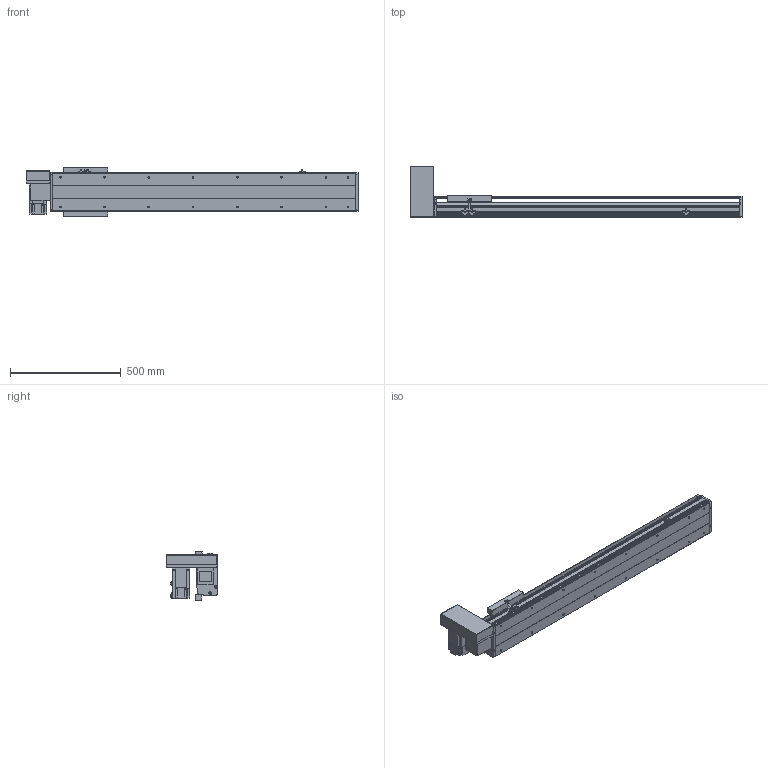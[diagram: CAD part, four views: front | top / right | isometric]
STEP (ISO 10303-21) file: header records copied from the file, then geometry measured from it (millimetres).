
FILE_DESCRIPTION(/* description */ ('STEP AP214'),/* implementation_level */ '2;1');
FILE_NAME(/* name */ 'PBS200-P40-S1000-RU-T75-C1-N(0)',/* time_stamp */ '2022-06-11T09:35:20+02:00',/* author */ ('License CC BY-ND 4.0'),/* organization */ ('CADENAS'),/* preprocessor_version */ 'ST-DEVELOPER v18.102',/* originating_system */ 'PARTsolutions',/* authorisation */ ' ');
FILE_SCHEMA (('AUTOMOTIVE_DESIGN {1 0 10303 214 3 1 1}'));
Length unit declared in the file: millimetre
Products named in the file (7): PBS200-P40-S1000-RU-T75-C1-N(0); PBS200_sensor; PBS200_plant; PBS200_sliser; T75-p1; PBS200T-RU_motors; PBS200-S1000()_body
Assembly tree (8 placements, depth 2):
  PBS200-P40-S1000-RU-T75-C1-N(0)
    PBS200_sensor  x3
    PBS200_plant
    PBS200_sliser
    T75-p1
    PBS200T-RU_motors
    PBS200-S1000()_body
Bounding box: 1500 x 231 x 221 mm (x, y, z)
Volume: 11237140 mm3; surface area: 1819633 mm2
Topology: 8 solids, 8 shells, 920 faces, 2374 edges, 1548 vertices
Faces by surface type: plane 574, cylinder 298, cone 48
Full cylindrical faces by diameter (mm): 2.459 x6, 3.242 x4, 4.5 x6, 4.917 x4, 5 x6, 6 x7, 6.6 x8, 6.647 x20, 8 x6, 10 x4, 12 x8, 38 x2, 40 x1, 70 x1
Entity records: 24581 total; most frequent: DIRECTION 4327, CARTESIAN_POINT 4192, ORIENTED_EDGE 3982, EDGE_CURVE 1991, AXIS2_PLACEMENT_3D 1507, VERTEX_POINT 1372, LINE 1313, VECTOR 1313
